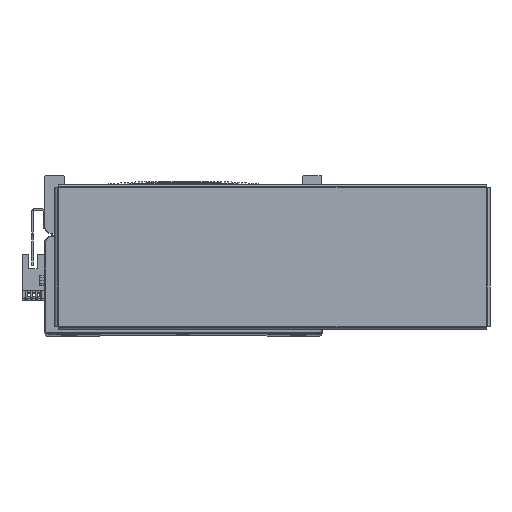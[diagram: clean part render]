
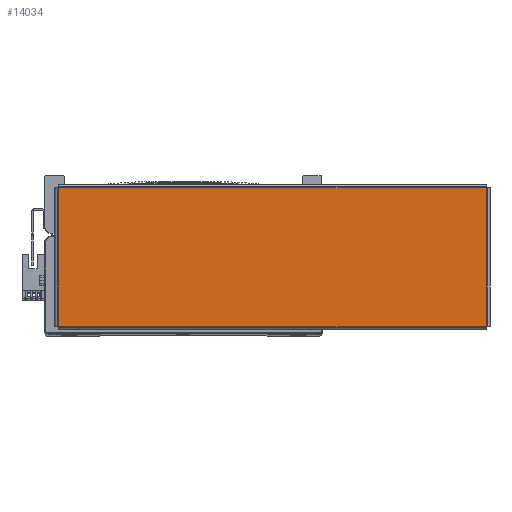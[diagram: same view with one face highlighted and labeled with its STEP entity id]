
A CAD part, top view. The second image highlights one B-rep face of the part: STEP entity #14034.
In plain terms, the highlighted planar face has unit normal (0, 0, 1) as drawn and (0, -1, 0) by its records, which use the part's own axes.
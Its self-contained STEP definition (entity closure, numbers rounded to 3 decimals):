
#5160 = ORIENTED_EDGE ( 'NONE', *, *, #60580, .T. ) ;
#5161 = ORIENTED_EDGE ( 'NONE', *, *, #60589, .T. ) ;
#5195 = ORIENTED_EDGE ( 'NONE', *, *, #60553, .T. ) ;
#5201 = ORIENTED_EDGE ( 'NONE', *, *, #60545, .T. ) ;
#14034 = ADVANCED_FACE ( 'NONE', ( #36201 ), #33844, .F. ) ;
#32662 = EDGE_LOOP ( 'NONE', ( #5201, #5195, #5160, #5161 ) ) ;
#33825 = DIRECTION ( 'NONE',  ( 0., 0., 1. ) ) ;
#33840 = DIRECTION ( 'NONE',  ( 0., 1., 0. ) ) ;
#33844 = PLANE ( 'NONE',  #37448 ) ;
#33854 = CARTESIAN_POINT ( 'NONE',  ( 0., -1.5, 0. ) ) ;
#36201 = FACE_OUTER_BOUND ( 'NONE', #32662, .T. ) ;
#37448 = AXIS2_PLACEMENT_3D ( 'NONE', #33854, #33840, #33825 ) ;
#45655 = DIRECTION ( 'NONE',  ( 0., 0., 1. ) ) ;
#45656 = CARTESIAN_POINT ( 'NONE',  ( 130.863, -1.5, -42.293 ) ) ;
#45681 = DIRECTION ( 'NONE',  ( -1., 0., 0. ) ) ;
#45706 = CARTESIAN_POINT ( 'NONE',  ( 130.893, -1.5, 42.263 ) ) ;
#45756 = CARTESIAN_POINT ( 'NONE',  ( -130.863, -1.5, 42.293 ) ) ;
#45760 = DIRECTION ( 'NONE',  ( 0., 0., -1. ) ) ;
#45766 = DIRECTION ( 'NONE',  ( 1., 0., 0. ) ) ;
#45771 = CARTESIAN_POINT ( 'NONE',  ( -130.893, -1.5, -42.263 ) ) ;
#46825 = LINE ( 'NONE', #45656, #46902 ) ;
#46865 = VECTOR ( 'NONE', #45681, 1000. ) ;
#46899 = LINE ( 'NONE', #45706, #46865 ) ;
#46902 = VECTOR ( 'NONE', #45655, 1000. ) ;
#46918 = LINE ( 'NONE', #45771, #46973 ) ;
#46941 = LINE ( 'NONE', #45756, #46956 ) ;
#46956 = VECTOR ( 'NONE', #45760, 1000. ) ;
#46973 = VECTOR ( 'NONE', #45766, 1000. ) ;
#56312 = VERTEX_POINT ( 'NONE', #57768 ) ;
#56328 = VERTEX_POINT ( 'NONE', #57794 ) ;
#56352 = VERTEX_POINT ( 'NONE', #57744 ) ;
#56354 = VERTEX_POINT ( 'NONE', #57748 ) ;
#57744 = CARTESIAN_POINT ( 'NONE',  ( 130.863, -1.5, -42.263 ) ) ;
#57748 = CARTESIAN_POINT ( 'NONE',  ( -130.863, -1.5, 42.263 ) ) ;
#57768 = CARTESIAN_POINT ( 'NONE',  ( 130.863, -1.5, 42.263 ) ) ;
#57794 = CARTESIAN_POINT ( 'NONE',  ( -130.863, -1.5, -42.263 ) ) ;
#60545 = EDGE_CURVE ( 'NONE', #56352, #56312, #46825, .T. ) ;
#60553 = EDGE_CURVE ( 'NONE', #56312, #56354, #46899, .T. ) ;
#60580 = EDGE_CURVE ( 'NONE', #56354, #56328, #46941, .T. ) ;
#60589 = EDGE_CURVE ( 'NONE', #56328, #56352, #46918, .T. ) ;
